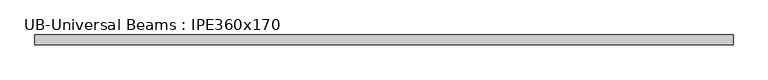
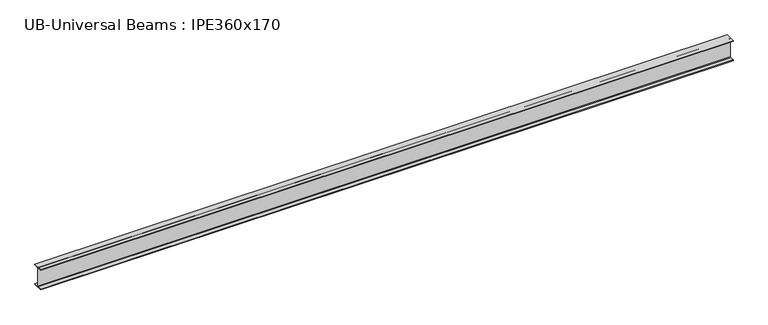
"""IFC4 building model written with IfcOpenShell, lengths in millimetres: beam geometry, UB-Universal Beams : IPE360x170."""

from ifc_helpers import new_model, si_unit, point, frame, frame_2d, origin, place, context, project, spatial, polyline, circle_curve, trimmed, segment, composite_curve, outline, extrude, source, transform, mapped, element, save


def ub_universal_beams_ipe360x170_00305597(model_context):
    return source(origin(), model_context, "Body", "SweptSolid", [
        extrude(outline(composite_curve([segment(polyline([(-85.0, -169.8), (-11.9, -169.8)]), True, "CONTINUOUS"), segment(trimmed(circle_curve(frame_2d((-11.9, -160.9)), 8.9), [point((-11.9, -169.8))], [point((-3.0, -160.9))], True, "CARTESIAN"), True, "CONTINUOUS"), segment(polyline([(-3.0, -160.9), (-3.0, 160.9)]), True, "CONTINUOUS"), segment(trimmed(circle_curve(frame_2d((-11.9, 160.9)), 8.9), [point((-3.0, 160.9))], [point((-11.9, 169.8))], True, "CARTESIAN"), True, "CONTINUOUS"), segment(polyline([(-11.9, 169.8), (-85.0, 169.8), (-85.0, 180.0), (85.0, 180.0), (85.0, 169.8), (11.9, 169.8)]), True, "CONTINUOUS"), segment(trimmed(circle_curve(frame_2d((11.9, 160.9)), 8.9), [point((11.9, 169.8))], [point((3.0, 160.9))], True, "CARTESIAN"), True, "CONTINUOUS"), segment(polyline([(3.0, 160.9), (3.0, -160.9)]), True, "CONTINUOUS"), segment(trimmed(circle_curve(frame_2d((11.9, -160.9)), 8.9), [point((3.0, -160.9))], [point((11.9, -169.8))], True, "CARTESIAN"), True, "CONTINUOUS"), segment(polyline([(11.9, -169.8), (85.0, -169.8), (85.0, -180.0), (-85.0, -180.0), (-85.0, -169.8)]), True, "CONTINUOUS")], self_intersect=False)), frame((-5834.95, 0.0, 0.0), z_axis=(1.0, 0.0, 0.0), x_axis=(0.0, 1.0, 0.0)), (0.0, 0.0, 1.0), 11835.0),
    ])


if __name__ == "__main__":
    model = new_model("IFC4")
    model_context = context("Model", 3, world=origin())
    ifc_project = project(units=[si_unit("LENGTHUNIT", "METRE", prefix="MILLI")], contexts=[model_context])
    site = spatial("IfcSite", under=ifc_project)
    building = spatial("IfcBuilding", under=site)
    placement = place(None, origin())
    ub_universal_beams_ipe360x170_shape = ub_universal_beams_ipe360x170_00305597(model_context)
    element("IfcBeam", 1, ObjectType="UB-Universal Beams : IPE360x170", at=placement, inside=building, context=model_context, shape_type="MappedRepresentation", body=[
        mapped(ub_universal_beams_ipe360x170_shape, transform((0.0, 0.0, 0.0), x_axis=(1.0, 0.0, 0.0), y_axis=(0.0, 1.0, 0.0), z_axis=(0.0, 0.0, 1.0))),
    ])
    save(model, "model.ifc")
